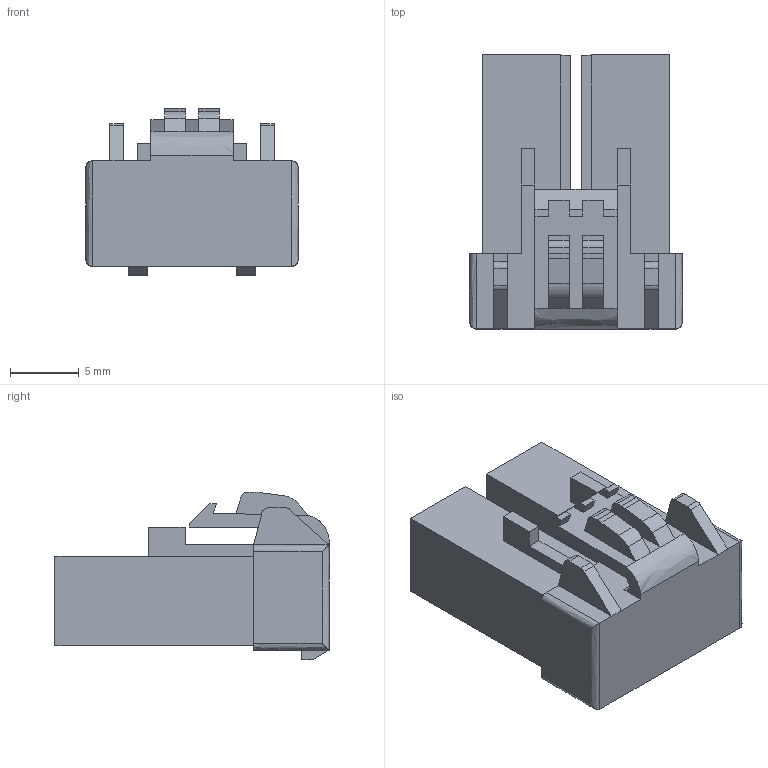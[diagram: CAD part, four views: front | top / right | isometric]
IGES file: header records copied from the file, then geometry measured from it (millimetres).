
Start section: Elysium IGES Interface
Global section: file name: E:\3D\DF22-2S-7.92C.igs; native system: CoCreate Modeling 17.0  01-Apr-2010; preprocessor: CoCreate IGES_3D V2.2; author: Unknown; organization: Unknown; date: 20110329.172128; units: millimetre
Bounding box: 15.5 x 20 x 12.25 mm (x, y, z)
Surface area: 1539.3 mm2 (no closed solid volume)
Topology: 0 solids, 0 shells, 124 faces, 788 edges, 788 vertices
Faces by surface type: plane 100, bspline 24
